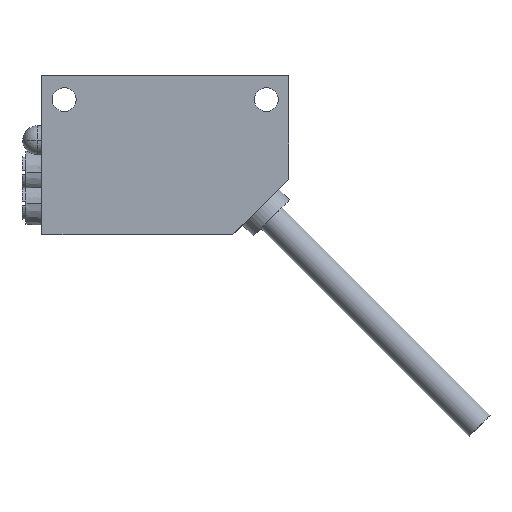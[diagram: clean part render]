
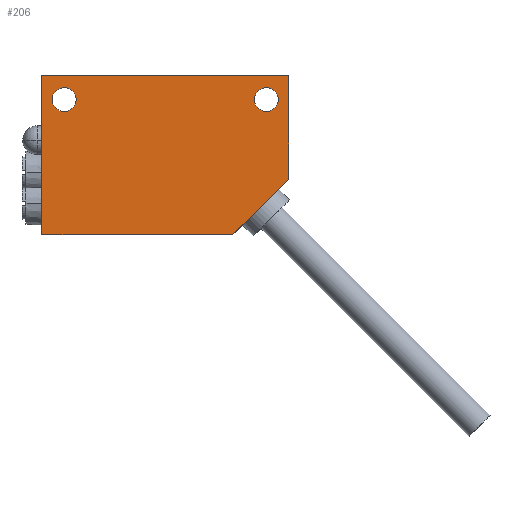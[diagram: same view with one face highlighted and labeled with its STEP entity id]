
A CAD part, left-side view. The second image highlights one B-rep face of the part: STEP entity #206.
In plain terms, the highlighted planar face has unit normal (-1, 0, 0) as drawn and (0, 0, -1) by its records, which use the part's own axes.
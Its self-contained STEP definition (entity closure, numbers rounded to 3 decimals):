
#31 = VERTEX_POINT ( 'NONE', #316 ) ;
#33 = EDGE_CURVE ( 'NONE', #31, #34, #315, .T. ) ;
#34 = VERTEX_POINT ( 'NONE', #311 ) ;
#86 = ORIENTED_EDGE ( 'NONE', *, *, #1781, .T. ) ;
#87 = EDGE_LOOP ( 'NONE', ( #89, #90, #88, #135, #136 ) ) ;
#88 = ORIENTED_EDGE ( 'NONE', *, *, #134, .F. ) ;
#89 = ORIENTED_EDGE ( 'NONE', *, *, #33, .F. ) ;
#90 = ORIENTED_EDGE ( 'NONE', *, *, #171, .F. ) ;
#134 = EDGE_CURVE ( 'NONE', #1887, #168, #592, .T. ) ;
#135 = ORIENTED_EDGE ( 'NONE', *, *, #1878, .F. ) ;
#136 = ORIENTED_EDGE ( 'NONE', *, *, #175, .F. ) ;
#168 = VERTEX_POINT ( 'NONE', #708 ) ;
#171 = EDGE_CURVE ( 'NONE', #168, #31, #978, .T. ) ;
#175 = EDGE_CURVE ( 'NONE', #34, #1874, #940, .T. ) ;
#206 = ADVANCED_FACE ( 'NONE', ( #726, #725, #724 ), #723, .F. ) ;
#207 = ORIENTED_EDGE ( 'NONE', *, *, #208, .T. ) ;
#208 = EDGE_CURVE ( 'NONE', #1766, #1765, #718, .T. ) ;
#209 = ORIENTED_EDGE ( 'NONE', *, *, #1764, .T. ) ;
#210 = EDGE_LOOP ( 'NONE', ( #211, #86 ) ) ;
#211 = ORIENTED_EDGE ( 'NONE', *, *, #212, .T. ) ;
#212 = EDGE_CURVE ( 'NONE', #1783, #1782, #713, .T. ) ;
#217 = EDGE_LOOP ( 'NONE', ( #207, #209 ) ) ;
#311 = CARTESIAN_POINT ( 'NONE',  ( 20., -24., -5.6 ) ) ;
#312 = DIRECTION ( 'NONE',  ( 0.707, 0.707, 0. ) ) ;
#313 = VECTOR ( 'NONE', #312, 1000. ) ;
#314 = CARTESIAN_POINT ( 'NONE',  ( 6.5, -37.5, -5.6 ) ) ;
#315 = LINE ( 'NONE', #314, #313 ) ;
#316 = CARTESIAN_POINT ( 'NONE',  ( 13., -31., -5.6 ) ) ;
#584 = DIRECTION ( 'NONE',  ( 0., -1., 0. ) ) ;
#585 = VECTOR ( 'NONE', #584, 1000. ) ;
#586 = CARTESIAN_POINT ( 'NONE',  ( 0., 0., -5.6 ) ) ;
#592 = LINE ( 'NONE', #586, #585 ) ;
#708 = CARTESIAN_POINT ( 'NONE',  ( 0., -31., -5.6 ) ) ;
#711 = CARTESIAN_POINT ( 'NONE',  ( 3., -2.8, -5.6 ) ) ;
#712 = AXIS2_PLACEMENT_3D ( 'NONE', #711, #811, #810 ) ;
#713 = CIRCLE ( 'NONE', #712, 1.5 ) ;
#714 = DIRECTION ( 'NONE',  ( 1., 0., 0. ) ) ;
#715 = DIRECTION ( 'NONE',  ( 0., 0., 1. ) ) ;
#716 = CARTESIAN_POINT ( 'NONE',  ( 3., -28.2, -5.6 ) ) ;
#717 = AXIS2_PLACEMENT_3D ( 'NONE', #716, #715, #714 ) ;
#718 = CIRCLE ( 'NONE', #717, 1.5 ) ;
#719 = DIRECTION ( 'NONE',  ( 1., 0., 0. ) ) ;
#720 = DIRECTION ( 'NONE',  ( 0., 0., 1. ) ) ;
#721 = CARTESIAN_POINT ( 'NONE',  ( 0., -31., -5.6 ) ) ;
#722 = AXIS2_PLACEMENT_3D ( 'NONE', #721, #720, #719 ) ;
#723 = PLANE ( 'NONE',  #722 ) ;
#724 = FACE_OUTER_BOUND ( 'NONE', #87, .T. ) ;
#725 = FACE_BOUND ( 'NONE', #210, .T. ) ;
#726 = FACE_BOUND ( 'NONE', #217, .T. ) ;
#810 = DIRECTION ( 'NONE',  ( 1., 0., 0. ) ) ;
#811 = DIRECTION ( 'NONE',  ( 0., 0., 1. ) ) ;
#937 = DIRECTION ( 'NONE',  ( 0., 1., 0. ) ) ;
#938 = VECTOR ( 'NONE', #937, 1000. ) ;
#939 = CARTESIAN_POINT ( 'NONE',  ( 20., 0., -5.6 ) ) ;
#940 = LINE ( 'NONE', #939, #938 ) ;
#975 = DIRECTION ( 'NONE',  ( 1., 0., 0. ) ) ;
#976 = VECTOR ( 'NONE', #975, 1000. ) ;
#977 = CARTESIAN_POINT ( 'NONE',  ( 0., -31., -5.6 ) ) ;
#978 = LINE ( 'NONE', #977, #976 ) ;
#1388 = CARTESIAN_POINT ( 'NONE',  ( 4.5, -2.8, -5.6 ) ) ;
#1389 = CARTESIAN_POINT ( 'NONE',  ( 1.5, -2.8, -5.6 ) ) ;
#1390 = DIRECTION ( 'NONE',  ( 1., 0., 0. ) ) ;
#1391 = DIRECTION ( 'NONE',  ( 0., 0., 1. ) ) ;
#1392 = AXIS2_PLACEMENT_3D ( 'NONE', #1398, #1391, #1390 ) ;
#1393 = CIRCLE ( 'NONE', #1392, 1.5 ) ;
#1398 = CARTESIAN_POINT ( 'NONE',  ( 3., -2.8, -5.6 ) ) ;
#1449 = CARTESIAN_POINT ( 'NONE',  ( 4.5, -28.2, -5.6 ) ) ;
#1450 = CARTESIAN_POINT ( 'NONE',  ( 1.5, -28.2, -5.6 ) ) ;
#1451 = DIRECTION ( 'NONE',  ( 1., 0., 0. ) ) ;
#1452 = DIRECTION ( 'NONE',  ( 0., 0., 1. ) ) ;
#1453 = CARTESIAN_POINT ( 'NONE',  ( 3., -28.2, -5.6 ) ) ;
#1454 = AXIS2_PLACEMENT_3D ( 'NONE', #1453, #1452, #1451 ) ;
#1455 = CIRCLE ( 'NONE', #1454, 1.5 ) ;
#1509 = CARTESIAN_POINT ( 'NONE',  ( 0., 0., -5.6 ) ) ;
#1520 = DIRECTION ( 'NONE',  ( -1., 0., 0. ) ) ;
#1521 = VECTOR ( 'NONE', #1520, 1000. ) ;
#1522 = CARTESIAN_POINT ( 'NONE',  ( 0., 0., -5.6 ) ) ;
#1523 = LINE ( 'NONE', #1522, #1521 ) ;
#1529 = CARTESIAN_POINT ( 'NONE',  ( 20., 0., -5.6 ) ) ;
#1764 = EDGE_CURVE ( 'NONE', #1765, #1766, #1455, .T. ) ;
#1765 = VERTEX_POINT ( 'NONE', #1450 ) ;
#1766 = VERTEX_POINT ( 'NONE', #1449 ) ;
#1781 = EDGE_CURVE ( 'NONE', #1782, #1783, #1393, .T. ) ;
#1782 = VERTEX_POINT ( 'NONE', #1389 ) ;
#1783 = VERTEX_POINT ( 'NONE', #1388 ) ;
#1874 = VERTEX_POINT ( 'NONE', #1529 ) ;
#1878 = EDGE_CURVE ( 'NONE', #1874, #1887, #1523, .T. ) ;
#1887 = VERTEX_POINT ( 'NONE', #1509 ) ;
